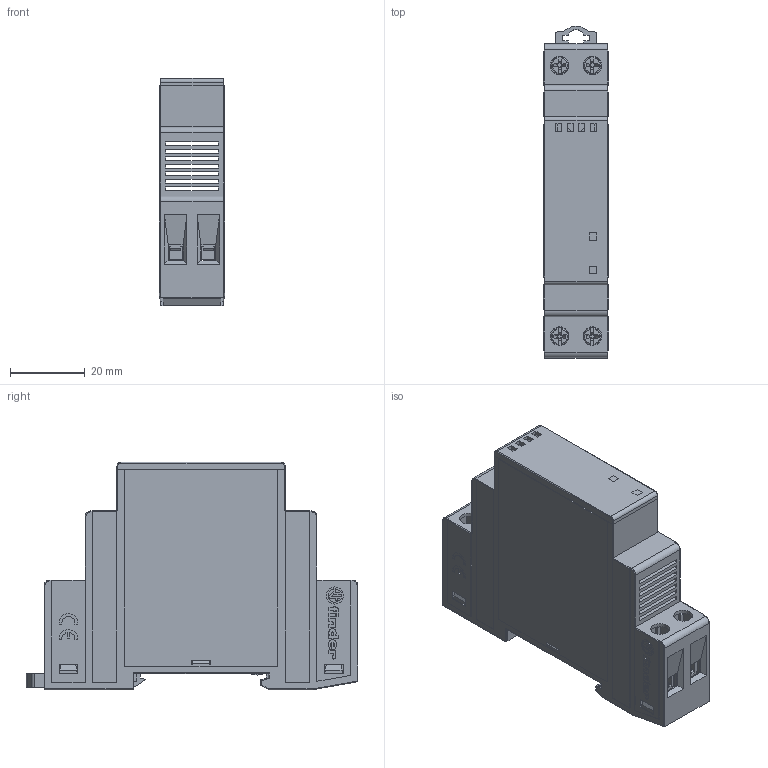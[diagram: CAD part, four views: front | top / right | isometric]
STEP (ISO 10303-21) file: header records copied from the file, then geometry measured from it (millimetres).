
FILE_DESCRIPTION(/* description */ ('Unknown'),/* implementation_level */ '2;1');
FILE_NAME(/* name */ 'Complessivo 77_01 DC - 203 x stp C',/* time_stamp */ '2016-07-06T14:08:18+02:00',/* author */ ('Unknown'),/* organization */ ('Unknown'),/* preprocessor_version */ 'ST-DEVELOPER v16',/* originating_system */ 'DEX',/* authorisation */ $);
FILE_SCHEMA (('AUTOMOTIVE_DESIGN {1 0 10303 214 3 1 1}'));
Length unit declared in the file: millimetre
Products named in the file (1): Complessivo 77_01 DC - 203 x stp C
Bounding box: 17.5 x 88.85 x 60.8 mm (x, y, z)
Surface area: 27412.2 mm2 (no closed solid volume)
Topology: 0 solids, 30 shells, 1367 faces, 4389 edges, 3067 vertices
Faces by surface type: plane 1153, cylinder 163, torus 20, cone 17, bspline 14
Full cylindrical faces by diameter (mm): 2.3 x4, 2.459 x4, 4.566 x2, 4.6 x4, 5 x4
Entity records: 50876 total; most frequent: CARTESIAN_POINT 10767, ORIENTED_EDGE 7602, DIRECTION 7435, EDGE_CURVE 4360, LINE 3809, VECTOR 3809, VERTEX_POINT 3057, AXIS2_PLACEMENT_3D 1813
